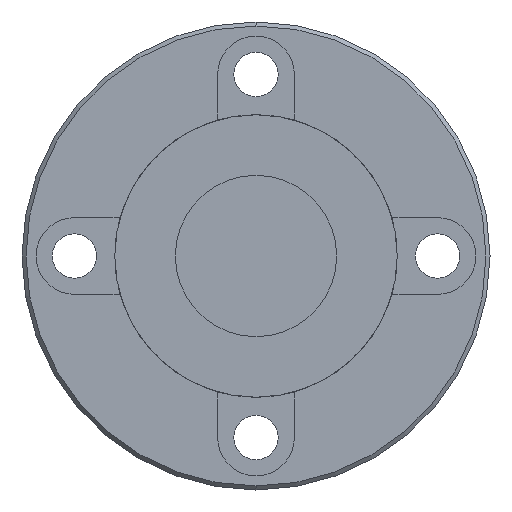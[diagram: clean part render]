
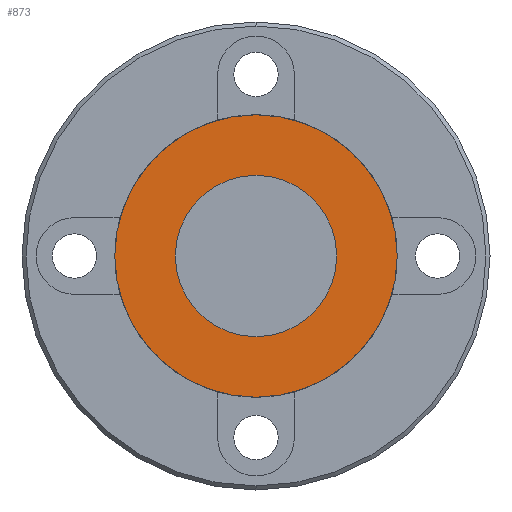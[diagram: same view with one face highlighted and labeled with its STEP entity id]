
A CAD part, left-side view. The second image highlights one B-rep face of the part: STEP entity #873.
In plain terms, the highlighted planar face has unit normal (-1, 0, 0) as drawn and (0, 0, 1) by its records, which use the part's own axes.
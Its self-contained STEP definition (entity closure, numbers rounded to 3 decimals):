
#24 = CARTESIAN_POINT ( 'NONE',  ( 0., 29., 6. ) ) ;
#36 = DIRECTION ( 'NONE',  ( -1., 0., 0. ) ) ;
#212 = DIRECTION ( 'NONE',  ( 0., 0., -1. ) ) ;
#228 = FACE_OUTER_BOUND ( 'NONE', #1095, .T. ) ;
#274 = FACE_BOUND ( 'NONE', #878, .T. ) ;
#307 = CARTESIAN_POINT ( 'NONE',  ( 0., 0., 6. ) ) ;
#340 = CIRCLE ( 'NONE', #1811, 10. ) ;
#485 = DIRECTION ( 'NONE',  ( 0., 0., -1. ) ) ;
#612 = AXIS2_PLACEMENT_3D ( 'NONE', #823, #212, #2350 ) ;
#680 = PLANE ( 'NONE',  #1550 ) ;
#734 = DIRECTION ( 'NONE',  ( -1., 0., 0. ) ) ;
#779 = VERTEX_POINT ( 'NONE', #922 ) ;
#823 = CARTESIAN_POINT ( 'NONE',  ( 0., 0., 6. ) ) ;
#871 = CIRCLE ( 'NONE', #1538, 17.5 ) ;
#873 = ADVANCED_FACE ( 'NONE', ( #274, #228 ), #680, .F. ) ;
#878 = EDGE_LOOP ( 'NONE', ( #1610, #1151 ) ) ;
#901 = DIRECTION ( 'NONE',  ( 0., 0., -1. ) ) ;
#911 = DIRECTION ( 'NONE',  ( -1., 0., 0. ) ) ;
#922 = CARTESIAN_POINT ( 'NONE',  ( 17.5, 0., 6. ) ) ;
#930 = CARTESIAN_POINT ( 'NONE',  ( -10., 0., 6. ) ) ;
#1028 = DIRECTION ( 'NONE',  ( -1., 0., 0. ) ) ;
#1073 = ORIENTED_EDGE ( 'NONE', *, *, #2318, .F. ) ;
#1095 = EDGE_LOOP ( 'NONE', ( #1136, #1073 ) ) ;
#1105 = CIRCLE ( 'NONE', #612, 10. ) ;
#1116 = VERTEX_POINT ( 'NONE', #2696 ) ;
#1136 = ORIENTED_EDGE ( 'NONE', *, *, #2470, .F. ) ;
#1151 = ORIENTED_EDGE ( 'NONE', *, *, #2132, .T. ) ;
#1218 = DIRECTION ( 'NONE',  ( 0., 0., -1. ) ) ;
#1349 = DIRECTION ( 'NONE',  ( 0., 0., -1. ) ) ;
#1538 = AXIS2_PLACEMENT_3D ( 'NONE', #1572, #901, #734 ) ;
#1550 = AXIS2_PLACEMENT_3D ( 'NONE', #24, #1349, #36 ) ;
#1572 = CARTESIAN_POINT ( 'NONE',  ( 0., 0., 6. ) ) ;
#1610 = ORIENTED_EDGE ( 'NONE', *, *, #1874, .T. ) ;
#1807 = CIRCLE ( 'NONE', #2026, 17.5 ) ;
#1811 = AXIS2_PLACEMENT_3D ( 'NONE', #307, #485, #911 ) ;
#1874 = EDGE_CURVE ( 'NONE', #1883, #1116, #340, .T. ) ;
#1883 = VERTEX_POINT ( 'NONE', #930 ) ;
#2026 = AXIS2_PLACEMENT_3D ( 'NONE', #2056, #1218, #1028 ) ;
#2056 = CARTESIAN_POINT ( 'NONE',  ( 0., 0., 6. ) ) ;
#2132 = EDGE_CURVE ( 'NONE', #1116, #1883, #1105, .T. ) ;
#2318 = EDGE_CURVE ( 'NONE', #779, #2623, #871, .T. ) ;
#2350 = DIRECTION ( 'NONE',  ( -1., 0., 0. ) ) ;
#2470 = EDGE_CURVE ( 'NONE', #2623, #779, #1807, .T. ) ;
#2610 = CARTESIAN_POINT ( 'NONE',  ( -17.5, 0., 6. ) ) ;
#2623 = VERTEX_POINT ( 'NONE', #2610 ) ;
#2696 = CARTESIAN_POINT ( 'NONE',  ( 10., 0., 6. ) ) ;
